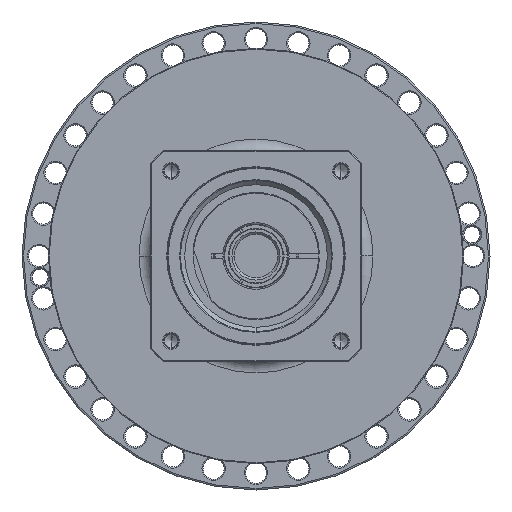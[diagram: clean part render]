
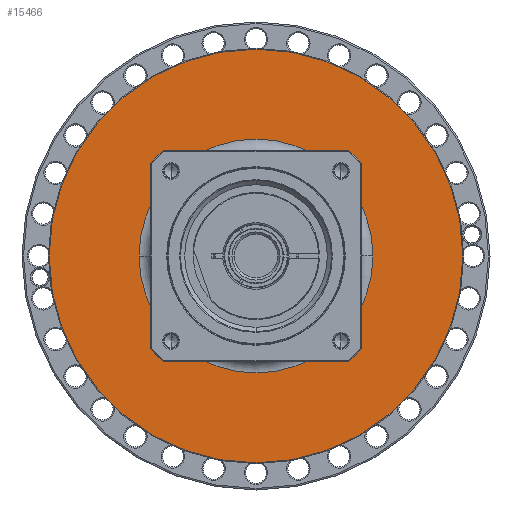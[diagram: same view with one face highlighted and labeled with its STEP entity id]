
A CAD part, left-side view. The second image highlights one B-rep face of the part: STEP entity #15466.
In plain terms, the highlighted planar face has unit normal (-1, 0, 0) as drawn and (1, 0, 0) by its records, which use the part's own axes.
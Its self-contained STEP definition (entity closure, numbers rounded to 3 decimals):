
#14945=CARTESIAN_POINT('',(-10.,0.,0.));
#14946=DIRECTION('',(-1.,0.,0.));
#14947=DIRECTION('',(0.,-1.,0.));
#14948=AXIS2_PLACEMENT_3D('',#14945,#14946,#14947);
#14950=CARTESIAN_POINT('',(-10.,0.,0.));
#14951=DIRECTION('',(-1.,0.,0.));
#14952=DIRECTION('',(0.,1.,0.));
#14953=AXIS2_PLACEMENT_3D('',#14950,#14951,#14952);
#14955=CARTESIAN_POINT('',(-10.,0.,0.));
#14956=DIRECTION('',(-1.,0.,0.));
#14957=DIRECTION('',(0.,-1.,0.));
#14958=AXIS2_PLACEMENT_3D('',#14955,#14956,#14957);
#14960=CARTESIAN_POINT('',(-10.,0.,0.));
#14961=DIRECTION('',(-1.,0.,0.));
#14962=DIRECTION('',(0.,1.,0.));
#14963=AXIS2_PLACEMENT_3D('',#14960,#14961,#14962);
#15029=CARTESIAN_POINT('',(-10.,-133.5,0.));
#15030=CARTESIAN_POINT('',(-10.,133.5,0.));
#15031=VERTEX_POINT('',#15029);
#15032=VERTEX_POINT('',#15030);
#15053=CARTESIAN_POINT('',(-10.,-75.5,0.));
#15054=CARTESIAN_POINT('',(-10.,75.5,0.));
#15055=VERTEX_POINT('',#15053);
#15056=VERTEX_POINT('',#15054);
#15451=CARTESIAN_POINT('',(-10.,0.,0.));
#15452=DIRECTION('',(1.,0.,0.));
#15453=DIRECTION('',(0.,-1.,0.));
#15454=AXIS2_PLACEMENT_3D('',#15451,#15452,#15453);
#15455=PLANE('',#15454);
#15456=ORIENTED_EDGE('',*,*,#15392,.T.);
#15457=ORIENTED_EDGE('',*,*,#15407,.T.);
#15458=EDGE_LOOP('',(#15456,#15457));
#15459=FACE_OUTER_BOUND('',#15458,.F.);
#15461=ORIENTED_EDGE('',*,*,#15460,.F.);
#15463=ORIENTED_EDGE('',*,*,#15462,.F.);
#15464=EDGE_LOOP('',(#15461,#15463));
#15465=FACE_BOUND('',#15464,.F.);
#15466=ADVANCED_FACE('',(#15459,#15465),#15455,.T.);
#14949=CIRCLE('',#14948,75.5);
#14954=CIRCLE('',#14953,75.5);
#14959=CIRCLE('',#14958,133.5);
#14964=CIRCLE('',#14963,133.5);
#15392=EDGE_CURVE('',#15031,#15032,#14959,.T.);
#15407=EDGE_CURVE('',#15032,#15031,#14964,.T.);
#15460=EDGE_CURVE('',#15055,#15056,#14949,.T.);
#15462=EDGE_CURVE('',#15056,#15055,#14954,.T.);
